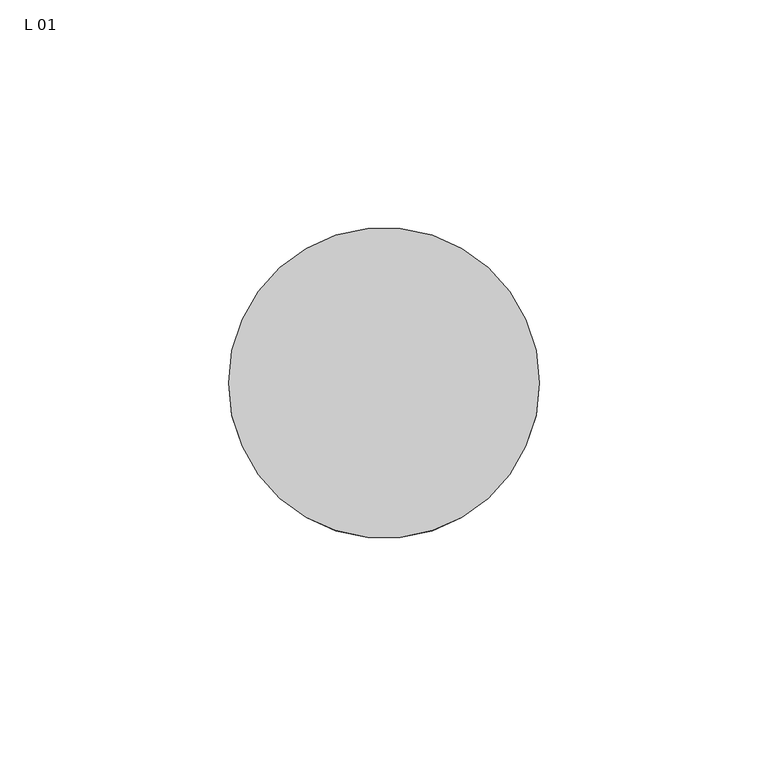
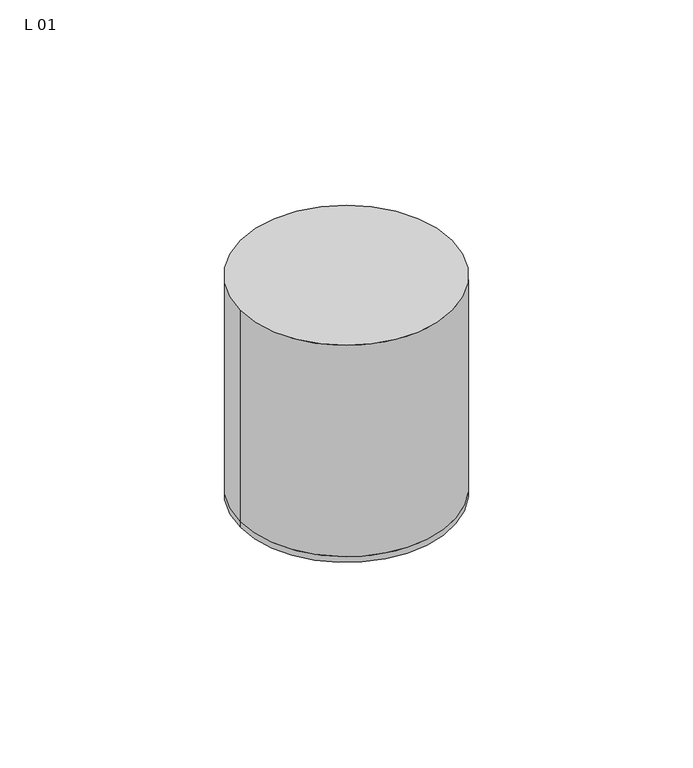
"""IFC4 building model written with IfcOpenShell, lengths in millimetres: light fixture geometry, ZYR_06.02.02 Down Superficie : L 01."""

import ifcopenshell
import ifcopenshell.guid

model = None  # the IFC model being written
_history = None  # IfcOwnerHistory: only IFC2X3 demands one
_inside = {}  # id of a spatial element -> (the spatial element, [elements in it])
_under = {}  # id of a project, library or spatial element -> (it, [spatial elements below it])
_declared = {}  # id of a project -> (the project, [libraries it declares])
_typed = {}  # id of a type object -> (the type object, [elements of that type])
_made_of = {}  # id of a material, layer set ... -> (it, [elements and type objects made of it])


def new_model(schema):
    """Start an empty IFC model of exactly this schema.

    Asked for "IFC4X3", IfcOpenShell would pick the latest addendum, in which some entities
    have other attributes; the version numbers below select the first issue.
    IFC2X3 requires an IfcOwnerHistory on every rooted entity: one is made here for all.
    """
    global model, _history
    if schema == "IFC4X3":
        model = ifcopenshell.file(schema_version=(4, 3, 0, 0))
    else:
        model = ifcopenshell.file(schema=schema)
    _inside.clear()
    _under.clear()
    _declared.clear()
    _typed.clear()
    _made_of.clear()
    _history = None
    if model.schema == "IFC2X3":
        org = make("IfcOrganization", Name="unknown")
        user = make(
            "IfcPersonAndOrganization",
            ThePerson=make("IfcPerson", FamilyName="unknown"),
            TheOrganization=org,
        )
        app = make(
            "IfcApplication",
            ApplicationDeveloper=org,
            Version="unknown",
            ApplicationFullName="unknown",
            ApplicationIdentifier="unknown",
        )
        _history = make(
            "IfcOwnerHistory",
            OwningUser=user,
            OwningApplication=app,
            ChangeAction="ADDED",
            CreationDate=0,
        )
    return model


def make(cls, **values):
    """One entity of the class cls with the attributes given. An attribute that is None is left unset."""
    return model.create_entity(
        cls, **{name: value for name, value in values.items() if value is not None}
    )


def rooted(cls, **values):
    """An entity with a GlobalId (a new one), such as an element, a storey or a relation."""
    return make(cls, GlobalId=ifcopenshell.guid.new(), OwnerHistory=_history, **values)


def si_unit(unit_type, name, prefix=None):
    """IfcSIUnit, for example si_unit("LENGTHUNIT", "METRE", prefix="MILLI")."""
    return make("IfcSIUnit", UnitType=unit_type, Prefix=prefix, Name=name)


def assignment(units):
    """IfcUnitAssignment: the units of a project."""
    return None if units is None else make("IfcUnitAssignment", Units=units)


def point(xyz):
    """IfcCartesianPoint."""
    return None if xyz is None else make("IfcCartesianPoint", Coordinates=xyz)


def direction(xyz):
    """IfcDirection."""
    return None if xyz is None else make("IfcDirection", DirectionRatios=xyz)


def frame(location, z_axis=None, x_axis=None):
    """IfcAxis2Placement3D, a coordinate frame: its origin and axes. An axis left out is left unset."""
    return make(
        "IfcAxis2Placement3D",
        Location=point(location),
        Axis=direction(z_axis),
        RefDirection=direction(x_axis),
    )


def frame_2d(location, x_axis=None):
    """IfcAxis2Placement2D, a coordinate frame in the plane: its origin and x axis."""
    return make(
        "IfcAxis2Placement2D", Location=point(location), RefDirection=direction(x_axis)
    )


def origin():
    """The frame at (0, 0, 0) with its axes left unset."""
    return frame((0.0, 0.0, 0.0))


def origin_2d():
    """The frame at (0, 0) in the plane with its x axis left unset."""
    return frame_2d((0.0, 0.0))


def place(relative_to, where):
    """IfcLocalPlacement: puts the frame where relative to a parent placement (None: the world)."""
    return make(
        "IfcLocalPlacement", PlacementRelTo=relative_to, RelativePlacement=where
    )


def context(
    kind, dimensions, precision=None, world=None, true_north=None, identifier=None
):
    """IfcGeometricRepresentationContext, for example the 3D "Model" context."""
    return make(
        "IfcGeometricRepresentationContext",
        ContextIdentifier=identifier,
        ContextType=kind,
        CoordinateSpaceDimension=dimensions,
        Precision=precision,
        WorldCoordinateSystem=world,
        TrueNorth=true_north,
    )


def project(units=None, contexts=None):
    """IfcProject with its units and contexts."""
    return rooted(
        "IfcProject",
        Name="project",
        RepresentationContexts=contexts,
        UnitsInContext=assignment(units),
    )


def spatial(cls, under=None, at=None, **own):
    """A site, building, storey or space (cls), placed at a placement, below another one or the project."""
    s = rooted(cls, ObjectPlacement=at, **own)
    if under is not None:
        _under.setdefault(under.id(), (under, []))[1].append(s)
    return s


def circle_curve(where, radius):
    """IfcCircle in the frame where."""
    return make("IfcCircle", Position=where, Radius=radius)


def trimmed(basis, trim1, trim2, sense, master):
    """IfcTrimmedCurve: the piece of a basis curve between two trims."""
    return make(
        "IfcTrimmedCurve",
        BasisCurve=basis,
        Trim1=trim1,
        Trim2=trim2,
        SenseAgreement=sense,
        MasterRepresentation=master,
    )


def segment(curve, same_sense, transition):
    """IfcCompositeCurveSegment."""
    return make(
        "IfcCompositeCurveSegment",
        Transition=transition,
        SameSense=same_sense,
        ParentCurve=curve,
    )


def composite_curve(segments, self_intersect=None):
    """IfcCompositeCurve: segments joined end to end."""
    return make("IfcCompositeCurve", Segments=segments, SelfIntersect=self_intersect)


def outline(outer, holes=None, kind="AREA"):
    """IfcArbitraryClosedProfileDef: a profile drawn as a closed curve; with holes, ...WithVoids."""
    if holes is None:
        return make("IfcArbitraryClosedProfileDef", ProfileType=kind, OuterCurve=outer)
    return make(
        "IfcArbitraryProfileDefWithVoids",
        ProfileType=kind,
        OuterCurve=outer,
        InnerCurves=holes,
    )


def extrude(swept, where, along, depth):
    """IfcExtrudedAreaSolid: the profile swept, set in the frame where, extruded along a direction by depth."""
    return make(
        "IfcExtrudedAreaSolid",
        SweptArea=swept,
        Position=where,
        ExtrudedDirection=direction(along),
        Depth=depth,
    )


def shape(context_of_items, identifier, shape_type, items):
    """IfcShapeRepresentation: the items that make up one representation, for example the "Body"."""
    return make(
        "IfcShapeRepresentation",
        ContextOfItems=context_of_items,
        RepresentationIdentifier=identifier,
        RepresentationType=shape_type,
        Items=items,
    )


def source(mapping_origin, context_of_items, identifier, shape_type, items):
    """IfcRepresentationMap: a shape defined once, which mapped items show again and again."""
    return make(
        "IfcRepresentationMap",
        MappingOrigin=mapping_origin,
        MappedRepresentation=shape(context_of_items, identifier, shape_type, items),
    )


def transform(
    local_origin,
    x_axis=None,
    y_axis=None,
    z_axis=None,
    scale=None,
    scale2=None,
    scale3=None,
    uniform=True,
):
    """IfcCartesianTransformationOperator3D, or its non-uniform kind. x_axis, y_axis, z_axis: its Axis1, 2, 3."""
    if uniform:
        return make(
            "IfcCartesianTransformationOperator3D",
            Axis1=direction(x_axis),
            Axis2=direction(y_axis),
            LocalOrigin=point(local_origin),
            Scale=scale,
            Axis3=direction(z_axis),
        )
    return make(
        "IfcCartesianTransformationOperator3DnonUniform",
        Axis1=direction(x_axis),
        Axis2=direction(y_axis),
        LocalOrigin=point(local_origin),
        Scale=scale,
        Axis3=direction(z_axis),
        Scale2=scale2,
        Scale3=scale3,
    )


def mapped(mapping_source, mapping_target):
    """IfcMappedItem: shows the shape of a source again, moved by a transform."""
    return make(
        "IfcMappedItem", MappingSource=mapping_source, MappingTarget=mapping_target
    )


def made_of(thing, what):
    """Note that an element or type object is made of a material, layer set ...; save() writes the relation."""
    if what is not None:
        _made_of.setdefault(what.id(), (what, []))[1].append(thing)
    return thing


def element(
    cls,
    number,
    at=None,
    inside=None,
    cuts=None,
    type_object=None,
    material=None,
    context=None,
    identifier="Body",
    shape_type=None,
    held_by="IfcProductDefinitionShape",
    body=None,
    shapes=None,
    **own,
):
    """One element of the class cls, such as IfcWall. Its Tag is "e" and its number.

    at: its placement. inside: the storey or other place that contains it. cuts: it is an
    opening in that element (IfcRelVoidsElement). A single representation is given by context,
    identifier, shape_type and body (its items); several are given by shapes. held_by: the class
    of the entity that holds the representations. save() writes the other relations.
    """
    e = rooted(cls, Tag="e%d" % number, ObjectPlacement=at, **own)
    if body is not None:
        shapes = [shape(context, identifier, shape_type, body)]
    if shapes is not None:
        e.Representation = make(held_by, Representations=shapes)
    if inside is not None:
        _inside.setdefault(inside.id(), (inside, []))[1].append(e)
    if cuts is not None:
        rooted(
            "IfcRelVoidsElement", RelatingBuildingElement=cuts, RelatedOpeningElement=e
        )
    if type_object is not None:
        _typed.setdefault(type_object.id(), (type_object, []))[1].append(e)
    return made_of(e, material)


def aggregate(whole, parts):
    """IfcRelAggregates: a whole, such as a stair, and the parts it consists of."""
    return rooted("IfcRelAggregates", RelatingObject=whole, RelatedObjects=parts)


def save(model, path):
    """Write the relations noted so far, then the file.

    IfcRelAggregates (storeys below a building ...), IfcRelContainedInSpatialStructure (elements
    in a storey), IfcRelDefinesByType, IfcRelAssociatesMaterial and IfcRelDeclares: one each for
    every whole, place, type object, material and project.
    """
    for whole, parts in _under.values():
        aggregate(whole, parts)
    for where, things in _inside.values():
        rooted(
            "IfcRelContainedInSpatialStructure",
            RelatedElements=things,
            RelatingStructure=where,
        )
    for kind, things in _typed.values():
        rooted("IfcRelDefinesByType", RelatedObjects=things, RelatingType=kind)
    for what, things in _made_of.values():
        rooted("IfcRelAssociatesMaterial", RelatedObjects=things, RelatingMaterial=what)
    for by, libraries in _declared.values():
        rooted("IfcRelDeclares", RelatingContext=by, RelatedDefinitions=libraries)
    model.write(path)


def l_01_6aa5b77f(model_context):
    return source(origin(), model_context, "Body", "SweptSolid", [
        extrude(outline(composite_curve([segment(trimmed(circle_curve(origin_2d(), 34.0), [point((-34.0, 0.0))], [point((34.0, 0.0))], False, "CARTESIAN"), True, "CONTINUOUS"), segment(trimmed(circle_curve(origin_2d(), 34.0), [point((34.0, 0.0))], [point((-34.0, 0.0))], False, "CARTESIAN"), True, "CONTINUOUS")], self_intersect=False)), frame((0.0, 0.0, -71.7), z_axis=(0.0, 0.0, 1.0), x_axis=(1.0, 0.0, 0.0)), (0.0, 0.0, 1.0), 71.7),
        extrude(outline(composite_curve([segment(trimmed(circle_curve(origin_2d(), 34.0), [point((-34.0, 0.0))], [point((34.0, 0.0))], False, "CARTESIAN"), True, "CONTINUOUS"), segment(trimmed(circle_curve(origin_2d(), 34.0), [point((34.0, 0.0))], [point((-34.0, 0.0))], False, "CARTESIAN"), True, "CONTINUOUS")], self_intersect=False)), frame((0.0, 0.0, -73.7), z_axis=(0.0, 0.0, 1.0), x_axis=(1.0, 0.0, 0.0)), (0.0, 0.0, 1.0), 2.0),
    ])


if __name__ == "__main__":
    model = new_model("IFC4")
    model_context = context("Model", 3, world=origin())
    ifc_project = project(units=[si_unit("LENGTHUNIT", "METRE", prefix="MILLI")], contexts=[model_context])
    site = spatial("IfcSite", under=ifc_project)
    building = spatial("IfcBuilding", under=site)
    placement = place(None, origin())
    l_01_shape = l_01_6aa5b77f(model_context)
    element("IfcLightFixture", 1, ObjectType="ZYR_06.02.02 Down Superficie : L 01", at=placement, inside=building, context=model_context, shape_type="MappedRepresentation", body=[
        mapped(l_01_shape, transform((0.0, 0.0, 0.0), x_axis=(1.0, 0.0, 0.0), y_axis=(0.0, 1.0, 0.0), z_axis=(0.0, 0.0, 1.0))),
    ])
    save(model, "model.ifc")
